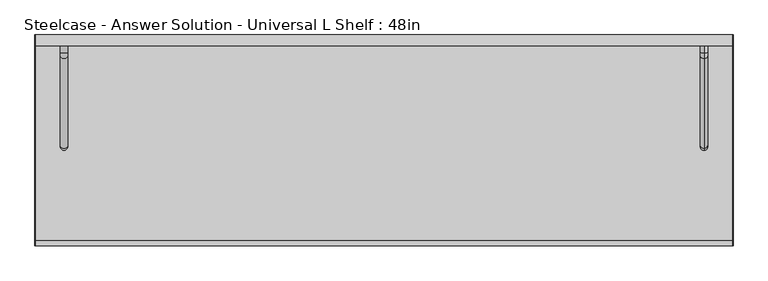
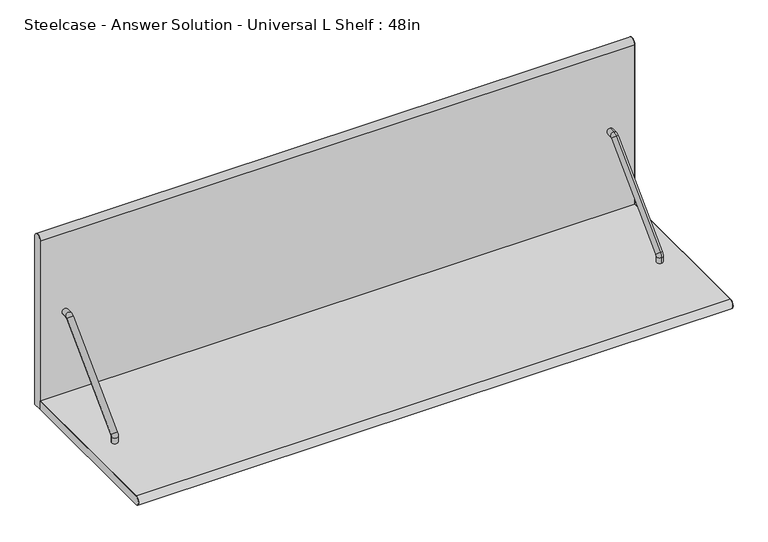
"""IFC4 building model written with IfcOpenShell, lengths in millimetres: furniture geometry, Steelcase - Answer Solution - Universal L Shelf : 48in."""

import ifcopenshell
import ifcopenshell.guid

model = None  # the IFC model being written
_history = None  # IfcOwnerHistory: only IFC2X3 demands one
_inside = {}  # id of a spatial element -> (the spatial element, [elements in it])
_under = {}  # id of a project, library or spatial element -> (it, [spatial elements below it])
_declared = {}  # id of a project -> (the project, [libraries it declares])
_typed = {}  # id of a type object -> (the type object, [elements of that type])
_made_of = {}  # id of a material, layer set ... -> (it, [elements and type objects made of it])


def new_model(schema):
    """Start an empty IFC model of exactly this schema.

    Asked for "IFC4X3", IfcOpenShell would pick the latest addendum, in which some entities
    have other attributes; the version numbers below select the first issue.
    IFC2X3 requires an IfcOwnerHistory on every rooted entity: one is made here for all.
    """
    global model, _history
    if schema == "IFC4X3":
        model = ifcopenshell.file(schema_version=(4, 3, 0, 0))
    else:
        model = ifcopenshell.file(schema=schema)
    _inside.clear()
    _under.clear()
    _declared.clear()
    _typed.clear()
    _made_of.clear()
    _history = None
    if model.schema == "IFC2X3":
        org = make("IfcOrganization", Name="unknown")
        user = make(
            "IfcPersonAndOrganization",
            ThePerson=make("IfcPerson", FamilyName="unknown"),
            TheOrganization=org,
        )
        app = make(
            "IfcApplication",
            ApplicationDeveloper=org,
            Version="unknown",
            ApplicationFullName="unknown",
            ApplicationIdentifier="unknown",
        )
        _history = make(
            "IfcOwnerHistory",
            OwningUser=user,
            OwningApplication=app,
            ChangeAction="ADDED",
            CreationDate=0,
        )
    return model


def make(cls, **values):
    """One entity of the class cls with the attributes given. An attribute that is None is left unset."""
    return model.create_entity(
        cls, **{name: value for name, value in values.items() if value is not None}
    )


def rooted(cls, **values):
    """An entity with a GlobalId (a new one), such as an element, a storey or a relation."""
    return make(cls, GlobalId=ifcopenshell.guid.new(), OwnerHistory=_history, **values)


def si_unit(unit_type, name, prefix=None):
    """IfcSIUnit, for example si_unit("LENGTHUNIT", "METRE", prefix="MILLI")."""
    return make("IfcSIUnit", UnitType=unit_type, Prefix=prefix, Name=name)


def assignment(units):
    """IfcUnitAssignment: the units of a project."""
    return None if units is None else make("IfcUnitAssignment", Units=units)


def point(xyz):
    """IfcCartesianPoint."""
    return None if xyz is None else make("IfcCartesianPoint", Coordinates=xyz)


def direction(xyz):
    """IfcDirection."""
    return None if xyz is None else make("IfcDirection", DirectionRatios=xyz)


def frame(location, z_axis=None, x_axis=None):
    """IfcAxis2Placement3D, a coordinate frame: its origin and axes. An axis left out is left unset."""
    return make(
        "IfcAxis2Placement3D",
        Location=point(location),
        Axis=direction(z_axis),
        RefDirection=direction(x_axis),
    )


def frame_2d(location, x_axis=None):
    """IfcAxis2Placement2D, a coordinate frame in the plane: its origin and x axis."""
    return make(
        "IfcAxis2Placement2D", Location=point(location), RefDirection=direction(x_axis)
    )


def origin():
    """The frame at (0, 0, 0) with its axes left unset."""
    return frame((0.0, 0.0, 0.0))


def place(relative_to, where):
    """IfcLocalPlacement: puts the frame where relative to a parent placement (None: the world)."""
    return make(
        "IfcLocalPlacement", PlacementRelTo=relative_to, RelativePlacement=where
    )


def context(
    kind, dimensions, precision=None, world=None, true_north=None, identifier=None
):
    """IfcGeometricRepresentationContext, for example the 3D "Model" context."""
    return make(
        "IfcGeometricRepresentationContext",
        ContextIdentifier=identifier,
        ContextType=kind,
        CoordinateSpaceDimension=dimensions,
        Precision=precision,
        WorldCoordinateSystem=world,
        TrueNorth=true_north,
    )


def project(units=None, contexts=None):
    """IfcProject with its units and contexts."""
    return rooted(
        "IfcProject",
        Name="project",
        RepresentationContexts=contexts,
        UnitsInContext=assignment(units),
    )


def spatial(cls, under=None, at=None, **own):
    """A site, building, storey or space (cls), placed at a placement, below another one or the project."""
    s = rooted(cls, ObjectPlacement=at, **own)
    if under is not None:
        _under.setdefault(under.id(), (under, []))[1].append(s)
    return s


def polyline(points):
    """IfcPolyline through the points."""
    return make("IfcPolyline", Points=[point(p) for p in points])


def circle_curve(where, radius):
    """IfcCircle in the frame where."""
    return make("IfcCircle", Position=where, Radius=radius)


def ellipse_curve(where, semi_axis1, semi_axis2):
    """IfcEllipse in the frame where."""
    return make(
        "IfcEllipse", Position=where, SemiAxis1=semi_axis1, SemiAxis2=semi_axis2
    )


def trimmed(basis, trim1, trim2, sense, master):
    """IfcTrimmedCurve: the piece of a basis curve between two trims."""
    return make(
        "IfcTrimmedCurve",
        BasisCurve=basis,
        Trim1=trim1,
        Trim2=trim2,
        SenseAgreement=sense,
        MasterRepresentation=master,
    )


def segment(curve, same_sense, transition):
    """IfcCompositeCurveSegment."""
    return make(
        "IfcCompositeCurveSegment",
        Transition=transition,
        SameSense=same_sense,
        ParentCurve=curve,
    )


def composite_curve(segments, self_intersect=None):
    """IfcCompositeCurve: segments joined end to end."""
    return make("IfcCompositeCurve", Segments=segments, SelfIntersect=self_intersect)


def outline(outer, holes=None, kind="AREA"):
    """IfcArbitraryClosedProfileDef: a profile drawn as a closed curve; with holes, ...WithVoids."""
    if holes is None:
        return make("IfcArbitraryClosedProfileDef", ProfileType=kind, OuterCurve=outer)
    return make(
        "IfcArbitraryProfileDefWithVoids",
        ProfileType=kind,
        OuterCurve=outer,
        InnerCurves=holes,
    )


def extrude(swept, where, along, depth):
    """IfcExtrudedAreaSolid: the profile swept, set in the frame where, extruded along a direction by depth."""
    return make(
        "IfcExtrudedAreaSolid",
        SweptArea=swept,
        Position=where,
        ExtrudedDirection=direction(along),
        Depth=depth,
    )


def shape(context_of_items, identifier, shape_type, items):
    """IfcShapeRepresentation: the items that make up one representation, for example the "Body"."""
    return make(
        "IfcShapeRepresentation",
        ContextOfItems=context_of_items,
        RepresentationIdentifier=identifier,
        RepresentationType=shape_type,
        Items=items,
    )


def source(mapping_origin, context_of_items, identifier, shape_type, items):
    """IfcRepresentationMap: a shape defined once, which mapped items show again and again."""
    return make(
        "IfcRepresentationMap",
        MappingOrigin=mapping_origin,
        MappedRepresentation=shape(context_of_items, identifier, shape_type, items),
    )


def transform(
    local_origin,
    x_axis=None,
    y_axis=None,
    z_axis=None,
    scale=None,
    scale2=None,
    scale3=None,
    uniform=True,
):
    """IfcCartesianTransformationOperator3D, or its non-uniform kind. x_axis, y_axis, z_axis: its Axis1, 2, 3."""
    if uniform:
        return make(
            "IfcCartesianTransformationOperator3D",
            Axis1=direction(x_axis),
            Axis2=direction(y_axis),
            LocalOrigin=point(local_origin),
            Scale=scale,
            Axis3=direction(z_axis),
        )
    return make(
        "IfcCartesianTransformationOperator3DnonUniform",
        Axis1=direction(x_axis),
        Axis2=direction(y_axis),
        LocalOrigin=point(local_origin),
        Scale=scale,
        Axis3=direction(z_axis),
        Scale2=scale2,
        Scale3=scale3,
    )


def mapped(mapping_source, mapping_target):
    """IfcMappedItem: shows the shape of a source again, moved by a transform."""
    return make(
        "IfcMappedItem", MappingSource=mapping_source, MappingTarget=mapping_target
    )


def made_of(thing, what):
    """Note that an element or type object is made of a material, layer set ...; save() writes the relation."""
    if what is not None:
        _made_of.setdefault(what.id(), (what, []))[1].append(thing)
    return thing


def element(
    cls,
    number,
    at=None,
    inside=None,
    cuts=None,
    type_object=None,
    material=None,
    context=None,
    identifier="Body",
    shape_type=None,
    held_by="IfcProductDefinitionShape",
    body=None,
    shapes=None,
    **own,
):
    """One element of the class cls, such as IfcWall. Its Tag is "e" and its number.

    at: its placement. inside: the storey or other place that contains it. cuts: it is an
    opening in that element (IfcRelVoidsElement). A single representation is given by context,
    identifier, shape_type and body (its items); several are given by shapes. held_by: the class
    of the entity that holds the representations. save() writes the other relations.
    """
    e = rooted(cls, Tag="e%d" % number, ObjectPlacement=at, **own)
    if body is not None:
        shapes = [shape(context, identifier, shape_type, body)]
    if shapes is not None:
        e.Representation = make(held_by, Representations=shapes)
    if inside is not None:
        _inside.setdefault(inside.id(), (inside, []))[1].append(e)
    if cuts is not None:
        rooted(
            "IfcRelVoidsElement", RelatingBuildingElement=cuts, RelatedOpeningElement=e
        )
    if type_object is not None:
        _typed.setdefault(type_object.id(), (type_object, []))[1].append(e)
    return made_of(e, material)


def aggregate(whole, parts):
    """IfcRelAggregates: a whole, such as a stair, and the parts it consists of."""
    return rooted("IfcRelAggregates", RelatingObject=whole, RelatedObjects=parts)


def save(model, path):
    """Write the relations noted so far, then the file.

    IfcRelAggregates (storeys below a building ...), IfcRelContainedInSpatialStructure (elements
    in a storey), IfcRelDefinesByType, IfcRelAssociatesMaterial and IfcRelDeclares: one each for
    every whole, place, type object, material and project.
    """
    for whole, parts in _under.values():
        aggregate(whole, parts)
    for where, things in _inside.values():
        rooted(
            "IfcRelContainedInSpatialStructure",
            RelatedElements=things,
            RelatingStructure=where,
        )
    for kind, things in _typed.values():
        rooted("IfcRelDefinesByType", RelatedObjects=things, RelatingType=kind)
    for what, things in _made_of.values():
        rooted("IfcRelAssociatesMaterial", RelatedObjects=things, RelatingMaterial=what)
    for by, libraries in _declared.values():
        rooted("IfcRelDeclares", RelatingContext=by, RelatedDefinitions=libraries)
    model.write(path)


def plane_surface(at):
    """IfcPlane: the flat surface through the origin of the frame at, square to its z axis."""
    return make("IfcPlane", Position=at)


def cylinder_surface(at, radius):
    """IfcCylindricalSurface: all points at the distance radius from the z axis of the frame at."""
    return make("IfcCylindricalSurface", Position=at, Radius=radius)


def revolved_surface(curve, axis_point, axis_direction):
    """IfcSurfaceOfRevolution: the curve turned about the line through axis_point along axis_direction."""
    return make(
        "IfcSurfaceOfRevolution",
        SweptCurve=make("IfcArbitraryOpenProfileDef", ProfileType="CURVE", Curve=curve),
        AxisPosition=make("IfcAxis1Placement", Location=point(axis_point), Axis=direction(axis_direction)),
    )


def advanced_brep(points, edges, surfaces, faces):
    """IfcAdvancedBrep: a solid bounded by faces that lie on surfaces and meet in shared edges.

    An edge is (start, end): straight between two places in points (the first is 0);
    or (start, end, curve); or (start, end, curve, False) where it runs against its curve.
    A face is (place in surfaces, loops), or (place, loops, False) where it looks against
    its surface's normal. A loop lists edges by number (the first is 1), with a minus sign
    where the edge is run from its end to its start. The first loop is the outer one.
    """
    corners = [point(p) for p in points]
    vertices = [make("IfcVertexPoint", VertexGeometry=c) for c in corners]
    made = []
    for start, end, *more in edges:
        made.append(
            make(
                "IfcEdgeCurve",
                EdgeStart=vertices[start],
                EdgeEnd=vertices[end],
                EdgeGeometry=more[0] if more else make("IfcPolyline", Points=[corners[start], corners[end]]),
                SameSense=more[1] if len(more) > 1 else True,
            )
        )
    hull = []
    for where, loops, *sense in faces:
        bounds = []
        for j, loop in enumerate(loops):
            ring = [make("IfcOrientedEdge", EdgeElement=made[abs(k) - 1], Orientation=k > 0) for k in loop]
            bounds.append(
                make(
                    "IfcFaceOuterBound" if j == 0 else "IfcFaceBound",
                    Bound=make("IfcEdgeLoop", EdgeList=ring),
                    Orientation=True,
                )
            )
        hull.append(make("IfcAdvancedFace", Bounds=bounds, FaceSurface=surfaces[where], SameSense=sense[0] if sense else True))
    return make("IfcAdvancedBrep", Outer=make("IfcClosedShell", CfsFaces=hull))


def steelcase_answer_solution_universal_l_shelf_48in_d961ae3b(model_context):
    return source(origin(), model_context, "Body", "SolidModel", [
        advanced_brep(
        [(1168.4, -19.05, 1474.7549677), (1168.4, -19.05, 1487.4549677), (1168.4, -31.5185531, 1474.7549677), (1168.4, -31.5185531, 1487.4549677), (1168.4, -40.9494499, 1483.5485623), (1168.4, -31.9691938, 1474.5683062), (1168.4, -188.7383749, 1317.7991251), (1168.4, -197.718631, 1326.7793812), (1168.4, -201.6125, 1317.3787499), (1168.4, -188.9125, 1317.3787499), (1168.4, -188.9125, 1304.925), (1168.4, -201.6125, 1304.925)],
        [
            (0, 1, circle_curve(frame((1168.4, -19.05, 1481.1049677), z_axis=(0.0, 1.0, 0.0), x_axis=(0.0, 0.0, 1.0)), 6.35)),
            (1, 0, circle_curve(frame((1168.4, -19.05, 1481.1049677), z_axis=(0.0, 1.0, 0.0), x_axis=(0.0, 0.0, 1.0)), 6.35)),
            (0, 2),
            (2, 3, circle_curve(frame((1168.4, -31.5185531, 1481.1049677), z_axis=(0.0, 1.0, 0.0), x_axis=(0.0, 0.0, 1.0)), 6.35)),
            (3, 1),
            (3, 2, circle_curve(frame((1168.4, -31.5185531, 1481.1049677), z_axis=(0.0, 1.0, 0.0), x_axis=(0.0, 0.0, 1.0)), 6.35)),
            (4, 3, circle_curve(frame((1168.4, -31.5185531, 1474.1176655), z_axis=(-1.0, 0.0, 0.0), x_axis=(0.0, 0.0, 1.0)), 13.3373022)),
            (2, 5, circle_curve(frame((1168.4, -31.5185531, 1474.1176655), z_axis=(1.0, 0.0, 0.0), x_axis=(0.0, 0.0, 1.0)), 0.6373022)),
            (5, 4, circle_curve(frame((1168.4, -36.4593219, 1479.0584342), z_axis=(0.0, 0.7071067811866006, 0.7071067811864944), x_axis=(0.0, -0.7071067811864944, 0.7071067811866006)), 6.35)),
            (4, 5, circle_curve(frame((1168.4, -36.4593219, 1479.0584342), z_axis=(0.0, 0.7071067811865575, 0.7071067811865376), x_axis=(0.0, -0.7071067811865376, 0.7071067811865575)), 6.35)),
            (5, 6),
            (6, 7, circle_curve(frame((1168.4, -193.228503, 1322.2892532), z_axis=(0.0, 0.7071067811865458, 0.7071067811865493), x_axis=(0.0, -0.7071067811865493, 0.7071067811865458)), 6.35)),
            (7, 4),
            (7, 6, circle_curve(frame((1168.4, -193.228503, 1322.2892532), z_axis=(0.0, 0.7071067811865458, 0.7071067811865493), x_axis=(0.0, -0.7071067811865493, 0.7071067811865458)), 6.35)),
            (8, 7, circle_curve(frame((1168.4, -188.3179998, 1317.3787499), z_axis=(-1.0, 0.0, 0.0), x_axis=(0.0, -0.7071067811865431, 0.7071067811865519)), 13.2945002)),
            (6, 9, circle_curve(frame((1168.4, -188.3179998, 1317.3787499), z_axis=(1.0, 0.0, 0.0), x_axis=(0.0, -0.7071067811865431, 0.7071067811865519)), 0.5945002)),
            (9, 8, circle_curve(frame((1168.4, -195.2625, 1317.3787499), z_axis=(0.0, 0.0, 1.0), x_axis=(0.0, -1.0, 0.0)), 6.35)),
            (8, 9, circle_curve(frame((1168.4, -195.2625, 1317.3787499), z_axis=(0.0, 0.0, 1.0), x_axis=(0.0, -1.0, 0.0)), 6.35)),
            (10, 11, circle_curve(frame((1168.4, -195.2625, 1304.925), z_axis=(0.0, 0.0, -1.0), x_axis=(0.0, -1.0, 0.0)), 6.35)),
            (11, 10, circle_curve(frame((1168.4, -195.2625, 1304.925), z_axis=(0.0, 0.0, -1.0), x_axis=(0.0, -1.0, 0.0)), 6.35)),
            (9, 10),
            (11, 8),
        ],
        [
            plane_surface(frame((1168.4, -19.05, 1481.1049677), z_axis=(0.0, 1.0, 0.0), x_axis=(-1.0, 0.0, 0.0))),
            cylinder_surface(frame((1168.4, -19.05, 1481.1049677), z_axis=(0.0, 1.0, 0.0), x_axis=(0.0, 0.0, 1.0)), 6.35),
            revolved_surface(trimmed(ellipse_curve(frame((1168.4, -31.5185531, 1481.1049677), z_axis=(0.0, 1.0, 0.0), x_axis=(0.0, 0.0, 1.0)), 6.35, 6.35), [point((1168.4, -31.5185531, 1474.7549677))], [point((1168.4, -31.5185531, 1487.4549677))], True, "CARTESIAN"), (1168.4, -31.5185531, 1474.1176655), (1.0, 0.0, 0.0)),
            revolved_surface(trimmed(ellipse_curve(frame((1168.4, -31.5185531, 1481.1049677), z_axis=(0.0, 1.0, 0.0), x_axis=(0.0, 0.0, 1.0)), 6.35, 6.35), [point((1168.4, -31.5185531, 1487.4549677))], [point((1168.4, -31.5185531, 1474.7549677))], True, "CARTESIAN"), (1168.4, -31.5185531, 1474.1176655), (1.0, 0.0, 0.0)),
            cylinder_surface(frame((1168.4, -36.4593219, 1479.0584342), z_axis=(0.0, 0.7071067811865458, 0.7071067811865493), x_axis=(0.0, -0.7071067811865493, 0.7071067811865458)), 6.35),
            revolved_surface(trimmed(ellipse_curve(frame((1168.4, -193.228503, 1322.2892532), z_axis=(0.0, 0.7071067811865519, 0.7071067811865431), x_axis=(0.0, -0.7071067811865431, 0.7071067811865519)), 6.35, 6.35), [point((1168.4, -188.7383749, 1317.7991251))], [point((1168.4, -197.718631, 1326.7793812))], True, "CARTESIAN"), (1168.4, -188.3179998, 1317.3787499), (1.0, 0.0, 0.0)),
            revolved_surface(trimmed(ellipse_curve(frame((1168.4, -193.228503, 1322.2892532), z_axis=(0.0, 0.7071067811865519, 0.7071067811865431), x_axis=(0.0, -0.7071067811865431, 0.7071067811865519)), 6.35, 6.35), [point((1168.4, -197.718631, 1326.7793812))], [point((1168.4, -188.7383749, 1317.7991251))], True, "CARTESIAN"), (1168.4, -188.3179998, 1317.3787499), (1.0, 0.0, 0.0)),
            plane_surface(frame((1168.4, -195.2625, 1304.925), z_axis=(0.0, 0.0, -1.0), x_axis=(-1.0, 0.0, 0.0))),
            cylinder_surface(frame((1168.4, -195.2625, 1317.3787499), z_axis=(0.0, 0.0, 1.0), x_axis=(0.0, -1.0, 0.0)), 6.35),
        ],
        [
            (0, [[1, 2]]),
            (1, [[-1, 3, 4, 5]]),
            (1, [[-2, -5, 6, -3]]),
            (2, [[7, -4, 8, 9]]),
            (3, [[-8, -6, -7, 10]]),
            (4, [[-9, 11, 12, 13]]),
            (4, [[-10, -13, 14, -11]]),
            (5, [[15, -12, 16, 17]]),
            (6, [[-16, -14, -15, 18]]),
            (7, [[19, 20]]),
            (8, [[-17, 21, -20, 22]]),
            (8, [[-18, -22, -19, -21]]),
        ],
    ),
        advanced_brep(
        [(44.45, -19.05, 1481.1049677), (57.15, -19.05, 1481.1049677), (44.45, -31.5185531, 1481.1049677), (57.15, -31.5185531, 1481.1049677), (57.15, -36.4593219, 1479.0584342), (44.45, -36.4593219, 1479.0584342), (44.45, -193.228503, 1322.2892532), (57.15, -193.228503, 1322.2892532), (57.15, -195.2625, 1317.3787499), (44.45, -195.2625, 1317.3787499), (44.45, -195.2625, 1304.925), (57.15, -195.2625, 1304.925)],
        [
            (0, 1, circle_curve(frame((50.8, -19.05, 1481.1049677), z_axis=(0.0, 1.0, 0.0), x_axis=(1.0, 0.0, 0.0)), 6.35)),
            (1, 0, circle_curve(frame((50.8, -19.05, 1481.1049677), z_axis=(0.0, 1.0, 0.0), x_axis=(1.0, 0.0, 0.0)), 6.35)),
            (0, 2),
            (2, 3, circle_curve(frame((50.8, -31.5185531, 1481.1049677), z_axis=(0.0, 1.0, 0.0), x_axis=(1.0, 0.0, 0.0)), 6.35)),
            (3, 1),
            (3, 2, circle_curve(frame((50.8, -31.5185531, 1481.1049677), z_axis=(0.0, 1.0, 0.0), x_axis=(1.0, 0.0, 0.0)), 6.35)),
            (4, 3, circle_curve(frame((57.15, -31.5185531, 1474.1176655), z_axis=(-1.0, 0.0, 0.0), x_axis=(0.0, 0.0, 1.0)), 6.9873022)),
            (2, 5, circle_curve(frame((44.45, -31.5185531, 1474.1176655), z_axis=(1.0, 0.0, 0.0), x_axis=(0.0, 0.0, 1.0)), 6.9873022)),
            (5, 4, circle_curve(frame((50.8, -36.4593219, 1479.0584342), z_axis=(0.0, 0.7071067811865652, 0.7071067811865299), x_axis=(1.0, 0.0, 0.0)), 6.35)),
            (4, 5, circle_curve(frame((50.8, -36.4593219, 1479.0584342), z_axis=(0.0, 0.7071067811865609, 0.7071067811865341), x_axis=(1.0, 0.0, 0.0)), 6.35)),
            (5, 6),
            (6, 7, circle_curve(frame((50.8, -193.228503, 1322.2892532), z_axis=(0.0, 0.7071067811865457, 0.7071067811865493), x_axis=(1.0, 0.0, 0.0)), 6.35)),
            (7, 4),
            (7, 6, circle_curve(frame((50.8, -193.228503, 1322.2892532), z_axis=(0.0, 0.7071067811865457, 0.7071067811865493), x_axis=(1.0, 0.0, 0.0)), 6.35)),
            (8, 7, circle_curve(frame((57.15, -188.3179998, 1317.3787499), z_axis=(-1.0, 0.0, 0.0), x_axis=(0.0, -0.7071067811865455, 0.7071067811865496)), 6.9445002)),
            (6, 9, circle_curve(frame((44.45, -188.3179998, 1317.3787499), z_axis=(1.0, 0.0, 0.0), x_axis=(0.0, -0.7071067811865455, 0.7071067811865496)), 6.9445002)),
            (9, 8, circle_curve(frame((50.8, -195.2625, 1317.3787499), z_axis=(0.0, 0.0, 1.0), x_axis=(1.0, 0.0, 0.0)), 6.35)),
            (8, 9, circle_curve(frame((50.8, -195.2625, 1317.3787499), z_axis=(0.0, 0.0, 1.0), x_axis=(1.0, 0.0, 0.0)), 6.35)),
            (10, 11, circle_curve(frame((50.8, -195.2625, 1304.925), z_axis=(0.0, 0.0, -1.0), x_axis=(1.0, 0.0, 0.0)), 6.35)),
            (11, 10, circle_curve(frame((50.8, -195.2625, 1304.925), z_axis=(0.0, 0.0, -1.0), x_axis=(1.0, 0.0, 0.0)), 6.35)),
            (9, 10),
            (11, 8),
        ],
        [
            plane_surface(frame((50.8, -19.05, 1481.1049677), z_axis=(0.0, 1.0, 0.0), x_axis=(-1.0, 0.0, 0.0))),
            cylinder_surface(frame((50.8, -19.05, 1481.1049677), z_axis=(0.0, 1.0, 0.0), x_axis=(1.0, 0.0, 0.0)), 6.35),
            revolved_surface(trimmed(ellipse_curve(frame((50.8, -31.5185531, 1481.1049677), z_axis=(0.0, 1.0, 0.0), x_axis=(1.0, 0.0, 0.0)), 6.35, 6.35), [point((44.45, -31.5185531, 1481.1049677))], [point((57.15, -31.5185531, 1481.1049677))], True, "CARTESIAN"), (50.8, -31.5185531, 1474.1176655), (1.0, 0.0, 0.0)),
            revolved_surface(trimmed(ellipse_curve(frame((50.8, -31.5185531, 1481.1049677), z_axis=(0.0, 1.0, 0.0), x_axis=(1.0, 0.0, 0.0)), 6.35, 6.35), [point((57.15, -31.5185531, 1481.1049677))], [point((44.45, -31.5185531, 1481.1049677))], True, "CARTESIAN"), (50.8, -31.5185531, 1474.1176655), (1.0, 0.0, 0.0)),
            cylinder_surface(frame((50.8, -36.4593219, 1479.0584342), z_axis=(0.0, 0.7071067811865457, 0.7071067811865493), x_axis=(1.0, 0.0, 0.0)), 6.35),
            revolved_surface(trimmed(ellipse_curve(frame((50.8, -193.228503, 1322.2892532), z_axis=(0.0, 0.7071067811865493, 0.7071067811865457), x_axis=(1.0, 0.0, 0.0)), 6.35, 6.35), [point((44.45, -193.228503, 1322.2892532))], [point((57.15, -193.228503, 1322.2892532))], True, "CARTESIAN"), (50.8, -188.3179998, 1317.3787499), (1.0, 0.0, 0.0)),
            revolved_surface(trimmed(ellipse_curve(frame((50.8, -193.228503, 1322.2892532), z_axis=(0.0, 0.7071067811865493, 0.7071067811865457), x_axis=(1.0, 0.0, 0.0)), 6.35, 6.35), [point((57.15, -193.228503, 1322.2892532))], [point((44.45, -193.228503, 1322.2892532))], True, "CARTESIAN"), (50.8, -188.3179998, 1317.3787499), (1.0, 0.0, 0.0)),
            plane_surface(frame((50.8, -195.2625, 1304.925), z_axis=(0.0, 0.0, -1.0), x_axis=(-1.0, 0.0, 0.0))),
            cylinder_surface(frame((50.8, -195.2625, 1317.3787499), z_axis=(0.0, 0.0, 1.0), x_axis=(1.0, 0.0, 0.0)), 6.35),
        ],
        [
            (0, [[1, 2]]),
            (1, [[-1, 3, 4, 5]]),
            (1, [[-2, -5, 6, -3]]),
            (2, [[7, -4, 8, 9]]),
            (3, [[-8, -6, -7, 10]]),
            (4, [[-9, 11, 12, 13]]),
            (4, [[-10, -13, 14, -11]]),
            (5, [[15, -12, 16, 17]]),
            (6, [[-16, -14, -15, 18]]),
            (7, [[19, 20]]),
            (8, [[-17, 21, -20, 22]]),
            (8, [[-18, -22, -19, -21]]),
        ],
    ),
        extrude(outline(composite_curve([segment(polyline([(-358.7557809, 1304.925), (-19.05, 1304.925), (-19.05, 1285.875), (-358.7557809, 1285.875)]), True, "CONTINUOUS"), segment(trimmed(circle_curve(frame_2d((-358.7557809, 1295.4)), 9.525), [point((-358.7557809, 1285.875))], [point((-358.7557809, 1304.925))], False, "CARTESIAN"), True, "CONTINUOUS")], self_intersect=False)), frame((1218.999975, 0.0, 0.0), z_axis=(1.0, 0.0, 0.0), x_axis=(0.0, 1.0, 0.0)), (0.0, 0.0, 1.0), 0.200025),
        extrude(outline(composite_curve([segment(trimmed(circle_curve(frame_2d((-9.525, 1650.9853521)), 9.525), [point((-19.05, 1650.9853521))], [point((0.0, 1650.9853521))], False, "CARTESIAN"), True, "CONTINUOUS"), segment(polyline([(0.0, 1650.9853521), (0.0, 1285.875), (-19.05, 1285.875), (-19.05, 1650.9853521)]), True, "CONTINUOUS")], self_intersect=False)), frame((1218.999975, 0.0, 0.0), z_axis=(1.0, 0.0, 0.0), x_axis=(0.0, 1.0, 0.0)), (0.0, 0.0, 1.0), 0.200025),
        extrude(outline(composite_curve([segment(polyline([(-358.7557809, 1304.925), (-19.05, 1304.925), (-19.05, 1285.875), (-358.7557809, 1285.875)]), True, "CONTINUOUS"), segment(trimmed(circle_curve(frame_2d((-358.7557809, 1295.4)), 9.525), [point((-358.7557809, 1285.875))], [point((-358.7557809, 1304.925))], False, "CARTESIAN"), True, "CONTINUOUS")], self_intersect=False)), frame((0.0, 0.0, 0.0), z_axis=(1.0, 0.0, 0.0), x_axis=(0.0, 1.0, 0.0)), (0.0, 0.0, 1.0), 0.200025),
        extrude(outline(composite_curve([segment(trimmed(circle_curve(frame_2d((-9.525, 1650.9853521)), 9.525), [point((-19.05, 1650.9853521))], [point((0.0, 1650.9853521))], False, "CARTESIAN"), True, "CONTINUOUS"), segment(polyline([(0.0, 1650.9853521), (0.0, 1285.875), (-19.05, 1285.875), (-19.05, 1650.9853521)]), True, "CONTINUOUS")], self_intersect=False)), frame((0.0, 0.0, 0.0), z_axis=(1.0, 0.0, 0.0), x_axis=(0.0, 1.0, 0.0)), (0.0, 0.0, 1.0), 0.200025),
        extrude(outline(composite_curve([segment(polyline([(0.0, 1650.9853521), (0.0, 1285.875), (-358.7557809, 1285.875)]), True, "CONTINUOUS"), segment(trimmed(circle_curve(frame_2d((-358.7557809, 1295.4)), 9.525), [point((-358.7557809, 1285.875))], [point((-358.7557809, 1304.925))], False, "CARTESIAN"), True, "CONTINUOUS"), segment(polyline([(-358.7557809, 1304.925), (-19.05, 1304.925), (-19.05, 1650.9853521)]), True, "CONTINUOUS"), segment(trimmed(circle_curve(frame_2d((-9.525, 1650.9853521)), 9.525), [point((-19.05, 1650.9853521))], [point((0.0, 1650.9853521))], False, "CARTESIAN"), True, "CONTINUOUS")], self_intersect=False)), frame((0.200025, 0.0, 0.0), z_axis=(1.0, 0.0, 0.0), x_axis=(0.0, 1.0, 0.0)), (0.0, 0.0, 1.0), 1218.79995),
    ])


if __name__ == "__main__":
    model = new_model("IFC4")
    model_context = context("Model", 3, world=origin())
    ifc_project = project(units=[si_unit("LENGTHUNIT", "METRE", prefix="MILLI")], contexts=[model_context])
    site = spatial("IfcSite", under=ifc_project)
    building = spatial("IfcBuilding", under=site)
    placement = place(None, origin())
    steelcase_answer_solution_universal_l_shelf_48in_shape = steelcase_answer_solution_universal_l_shelf_48in_d961ae3b(model_context)
    element("IfcFurniture", 1, ObjectType="Steelcase - Answer Solution - Universal L Shelf : 48in", at=placement, inside=building, context=model_context, shape_type="MappedRepresentation", body=[
        mapped(steelcase_answer_solution_universal_l_shelf_48in_shape, transform((0.0, 0.0, 0.0), x_axis=(1.0, 0.0, 0.0), y_axis=(0.0, 1.0, 0.0), z_axis=(0.0, 0.0, 1.0))),
    ])
    save(model, "model.ifc")
